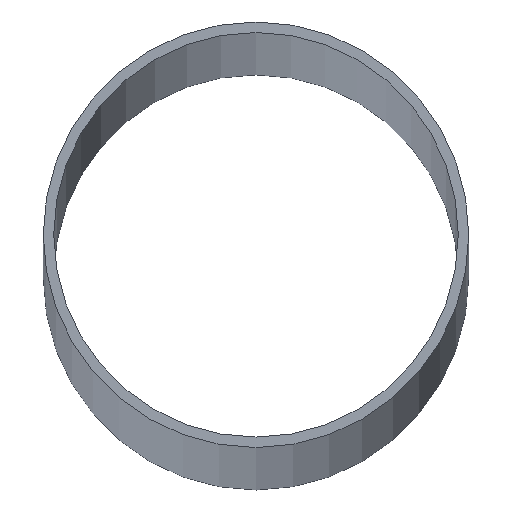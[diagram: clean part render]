
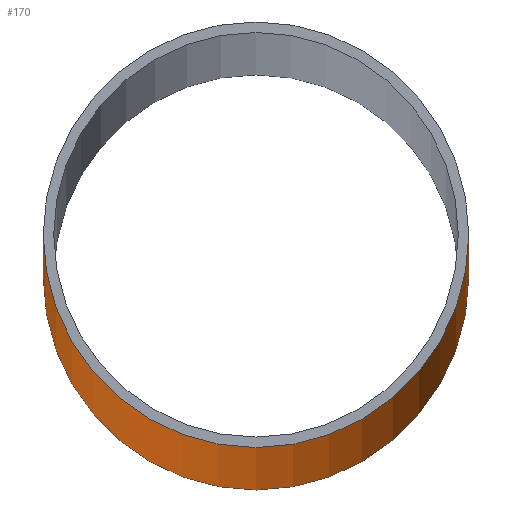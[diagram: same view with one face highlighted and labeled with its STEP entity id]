
A CAD part, top view. The second image highlights one B-rep face of the part: STEP entity #170.
In plain terms, the highlighted cylindrical face has radius 50.75 mm (diameter 101.5 mm), a partial arc.
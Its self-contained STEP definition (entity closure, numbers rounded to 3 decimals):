
#25=CARTESIAN_POINT('',(0.,0.,-2900.));
#26=DIRECTION('',(0.,0.,1.));
#27=DIRECTION('',(-1.,0.,0.));
#28=AXIS2_PLACEMENT_3D('',#25,#26,#27);
#49=DIRECTION('',(0.,0.,1.));
#50=VECTOR('',#49,5800.);
#51=CARTESIAN_POINT('',(50.75,0.,-2900.));
#52=LINE('',#51,#50);
#56=DIRECTION('',(0.,0.,1.));
#57=VECTOR('',#56,5800.);
#58=CARTESIAN_POINT('',(-50.75,0.,-2900.));
#59=LINE('',#58,#57);
#71=CARTESIAN_POINT('',(0.,0.,2900.));
#72=DIRECTION('',(0.,0.,1.));
#73=DIRECTION('',(-1.,0.,0.));
#74=AXIS2_PLACEMENT_3D('',#71,#72,#73);
#109=CARTESIAN_POINT('',(50.75,0.,-2900.));
#110=CARTESIAN_POINT('',(-50.75,0.,-2900.));
#111=VERTEX_POINT('',#109);
#112=VERTEX_POINT('',#110);
#117=CARTESIAN_POINT('',(50.75,0.,2900.));
#118=CARTESIAN_POINT('',(-50.75,0.,2900.));
#119=VERTEX_POINT('',#117);
#120=VERTEX_POINT('',#118);
#158=CARTESIAN_POINT('',(0.,0.,-2900.));
#159=DIRECTION('',(0.,0.,1.));
#160=DIRECTION('',(1.,0.,0.));
#161=AXIS2_PLACEMENT_3D('',#158,#159,#160);
#162=CYLINDRICAL_SURFACE('',#161,50.75);
#163=ORIENTED_EDGE('',*,*,#132,.F.);
#164=ORIENTED_EDGE('',*,*,#153,.T.);
#166=ORIENTED_EDGE('',*,*,#165,.T.);
#167=ORIENTED_EDGE('',*,*,#149,.F.);
#168=EDGE_LOOP('',(#163,#164,#166,#167));
#169=FACE_OUTER_BOUND('',#168,.F.);
#29=CIRCLE('',#28,50.75);
#75=CIRCLE('',#74,50.75);
#132=EDGE_CURVE('',#112,#111,#29,.T.);
#149=EDGE_CURVE('',#111,#119,#52,.T.);
#153=EDGE_CURVE('',#112,#120,#59,.T.);
#165=EDGE_CURVE('',#120,#119,#75,.T.);
#170=ADVANCED_FACE('',(#169),#162,.T.);
